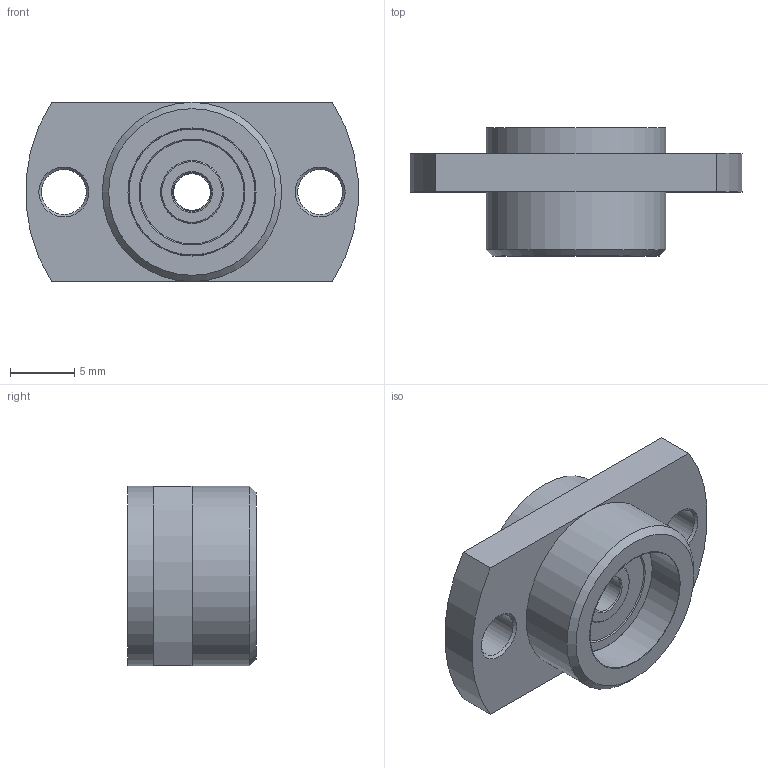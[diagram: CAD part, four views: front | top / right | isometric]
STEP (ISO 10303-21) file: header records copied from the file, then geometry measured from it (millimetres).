
FILE_DESCRIPTION((''),'1');
FILE_NAME('H:/図庫/国内ﾕﾆｯﾄ/ｻﾎﾟｰﾄﾕﾆｯﾄ/ホームページ用ＣＡＤ図面/3D/MSU-4GS_HP.stp','2016-11-24T01:19:32',(''),(''),'Spatial Interop R21 SP3','Kubotek KeyCreator 2011 V10.0.2 (22737)',' ');
FILE_SCHEMA(('automotive_design'));
Length unit declared in the file: millimetre
Products named in the file (61): Unnamed[1]
Bounding box: 25.91 x 10 x 14 mm (x, y, z)
Surface area: 1465.2 mm2 (no closed solid volume)
Topology: 0 solids, 61 shells, 61 faces, 248 edges, 228 vertices
Faces by surface type: plane 31, cylinder 17, cone 13
Full cylindrical faces by diameter (mm): 3 x1, 3.5 x2, 10 x2, 14 x2
Entity records: 5064 total; most frequent: DIRECTION 576, CARTESIAN_POINT 566, PRESENTATION_STYLE_ASSIGNMENT 244, COLOUR_RGB 244, AXIS2_PLACEMENT_3D 232, ORIENTED_EDGE 222, EDGE_CURVE 222, VERTEX_POINT 222
